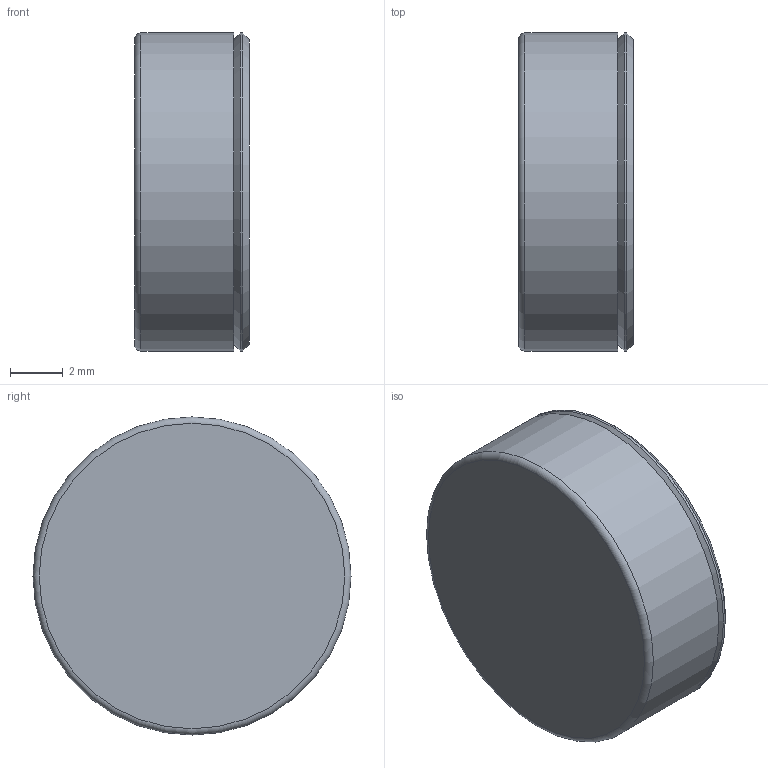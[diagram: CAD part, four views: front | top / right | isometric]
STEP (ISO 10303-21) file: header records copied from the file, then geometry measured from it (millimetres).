
FILE_DESCRIPTION(/* description */ ('BR SERIES SAFETY SCREEN FILTER, 12 mm'),/* implementation_level */ '2;1');
FILE_NAME(/* name */ '\\absolute\smwork\Vernon\SCRM5121XXXS.stp',/* time_stamp */ '2025-06-04T09:31:56-04:00',/* author */ ('VernonJ'),/* organization */ (''),/* preprocessor_version */ 'ST-DEVELOPER v18.1',/* originating_system */ 'Autodesk Inventor 2020',/* authorisation */ '');
FILE_SCHEMA (('AUTOMOTIVE_DESIGN { 1 0 10303 214 3 1 1 }'));
Length unit declared in the file: millimetre
Products named in the file (1): SCRM5121XXXS
Bounding box: 4.34 x 12.03 x 12.03 mm (x, y, z)
Volume: 419.8 mm3; surface area: 421.4 mm2
Topology: 1 solids, 1 shells, 11 faces, 29 edges, 22 vertices
Faces by surface type: plane 4, cylinder 3, torus 2, cone 2
Full cylindrical faces by diameter (mm): 9.46 x1, 12.03 x2
Entity records: 412 total; most frequent: DIRECTION 77, CARTESIAN_POINT 63, ORIENTED_EDGE 58, AXIS2_PLACEMENT_3D 36, EDGE_CURVE 29, CIRCLE 24, VERTEX_POINT 22, EDGE_LOOP 13
